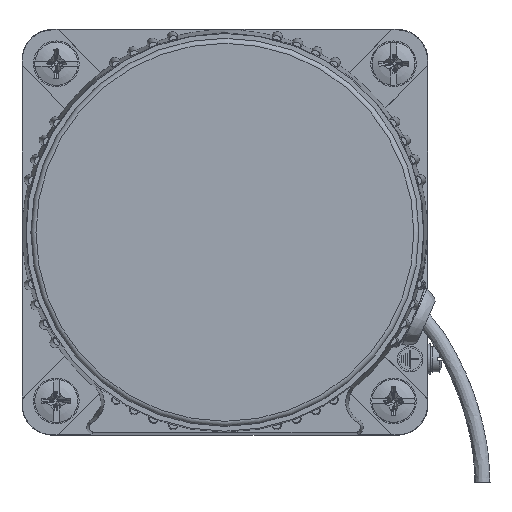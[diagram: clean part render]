
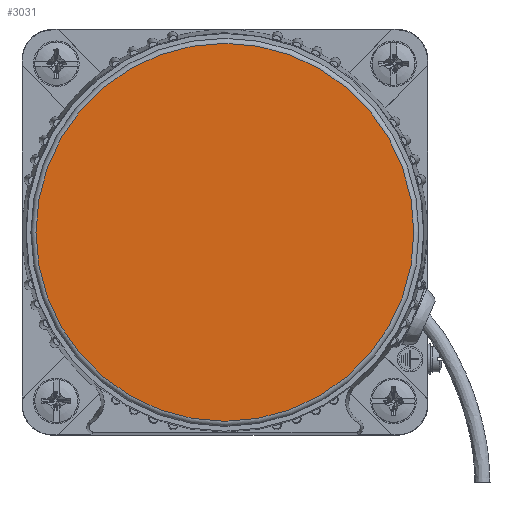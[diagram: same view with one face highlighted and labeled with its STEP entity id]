
A CAD part, left-side view. The second image highlights one B-rep face of the part: STEP entity #3031.
In plain terms, the highlighted planar face has unit normal (-1, 0, 0).
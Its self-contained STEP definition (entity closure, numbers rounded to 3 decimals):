
#1308=FACE_OUTER_BOUND('',#5298,.T.);
#3031=ADVANCED_FACE('',(#1308),#3280,.F.);
#3280=PLANE('',#13342);
#5298=EDGE_LOOP('',(#8839));
#8839=ORIENTED_EDGE('',*,*,#11349,.T.);
#9766=VERTEX_POINT('',#23623);
#11349=EDGE_CURVE('',#9766,#9766,#12307,.T.);
#12307=CIRCLE('',#13085,37.25);
#13085=AXIS2_PLACEMENT_3D('',#23622,#14903,#14904);
#13342=AXIS2_PLACEMENT_3D('',#31092,#15526,#15527);
#14903=DIRECTION('',(-1.,0.,0.));
#14904=DIRECTION('',(0.,0.,-1.));
#15526=DIRECTION('',(1.,0.,0.));
#15527=DIRECTION('',(0.,0.,-1.));
#23622=CARTESIAN_POINT('',(-86.,40.,40.));
#23623=CARTESIAN_POINT('',(-86.,40.,2.75));
#31092=CARTESIAN_POINT('',(-86.,40.,78.25));
